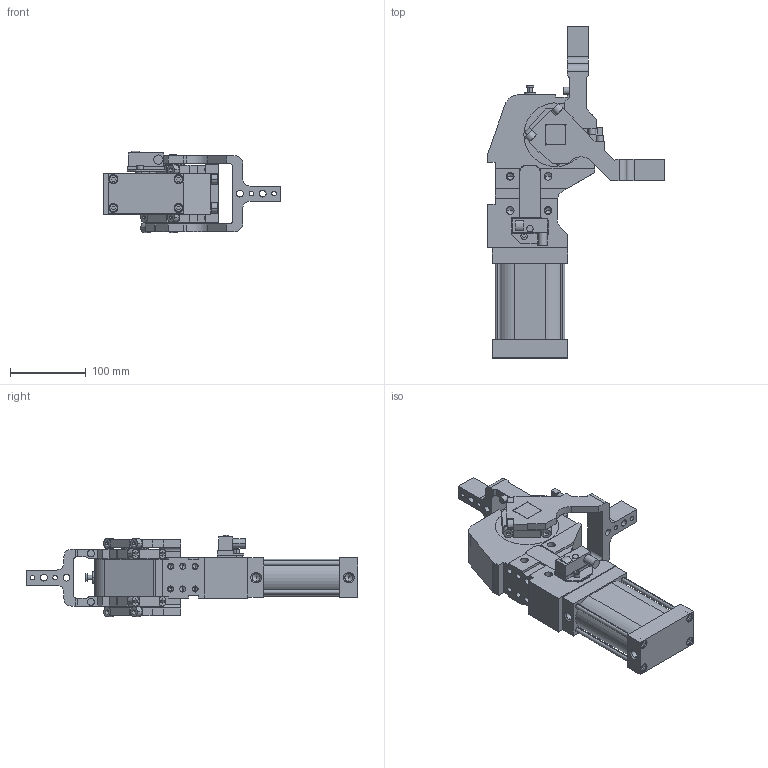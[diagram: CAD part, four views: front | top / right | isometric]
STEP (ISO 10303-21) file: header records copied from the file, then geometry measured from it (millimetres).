
FILE_DESCRIPTION (( 'STEP AP214' ), '1' );
FILE_NAME ('dl63b1c_i.STEP', '2014-03-17T09:14:16', ( 'vep' ), ( 'TOSHIBA' ), 'SwSTEP 2.0', 'SolidWorks 2013', '' );
FILE_SCHEMA (( 'AUTOMOTIVE_DESIGN' ));
Length unit declared in the file: millimetre
Products named in the file (8): leva_inferiore_dl63; gruppo_montante_dl63; leva_superiore_dl63; tassello_fermo_leva_dl63; blocchetto_p&f_90; dl63b1c_i; fc_induttivo_dl63; riparo_laterale_dl63
Assembly tree (7 placements, depth 2):
  dl63b1c_i
    gruppo_montante_dl63
    riparo_laterale_dl63
    fc_induttivo_dl63
    blocchetto_p&f_90
    tassello_fermo_leva_dl63
    leva_superiore_dl63
    leva_inferiore_dl63
Bounding box: 233.5 x 438 x 107.3 mm (x, y, z)
Volume: 2129535.4 mm3; surface area: 283921.1 mm2
Topology: 7 solids, 7 shells, 759 faces, 2035 edges, 1297 vertices
Faces by surface type: plane 482, cylinder 229, cone 48
Entity records: 24899 total; most frequent: DIRECTION 4081, CARTESIAN_POINT 4081, ORIENTED_EDGE 3982, EDGE_CURVE 1991, VECTOR 1423, LINE 1423, AXIS2_PLACEMENT_3D 1329, VERTEX_POINT 1297
